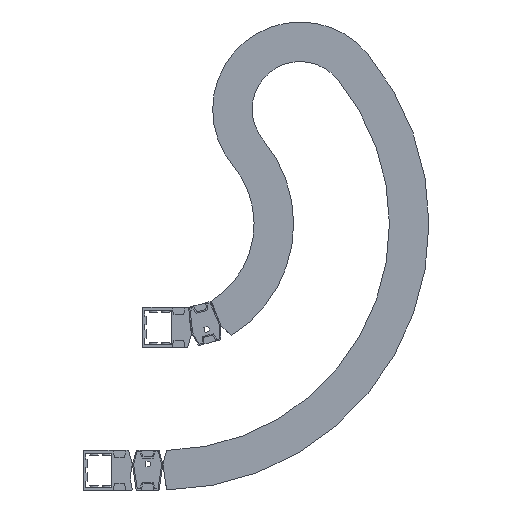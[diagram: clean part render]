
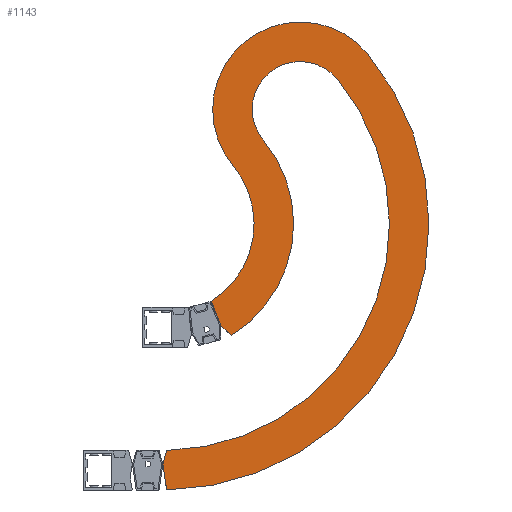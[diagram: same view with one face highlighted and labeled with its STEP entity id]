
A CAD part, front view. The second image highlights one B-rep face of the part: STEP entity #1143.
In plain terms, the highlighted planar face has unit normal (0, -1, 0).
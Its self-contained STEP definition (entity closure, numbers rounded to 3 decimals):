
#1143 = ADVANCED_FACE( '', ( #2284 ), #2285, .F. );
#2284 = FACE_OUTER_BOUND( '', #3412, .T. );
#2285 = PLANE( '', #3413 );
#3412 = EDGE_LOOP( '', ( #6754, #6755, #6756, #6757, #6758, #6759, #6760, #6761, #6762, #6763 ) );
#3413 = AXIS2_PLACEMENT_3D( '', #6764, #6765, #6766 );
#6754 = ORIENTED_EDGE( '', *, *, #7561, .F. );
#6755 = ORIENTED_EDGE( '', *, *, #7200, .F. );
#6756 = ORIENTED_EDGE( '', *, *, #8153, .F. );
#6757 = ORIENTED_EDGE( '', *, *, #8207, .T. );
#6758 = ORIENTED_EDGE( '', *, *, #8047, .F. );
#6759 = ORIENTED_EDGE( '', *, *, #7735, .F. );
#6760 = ORIENTED_EDGE( '', *, *, #7799, .F. );
#6761 = ORIENTED_EDGE( '', *, *, #7654, .T. );
#6762 = ORIENTED_EDGE( '', *, *, #7490, .T. );
#6763 = ORIENTED_EDGE( '', *, *, #7865, .F. );
#6764 = CARTESIAN_POINT( '', ( 0., -64., 0. ) );
#6765 = DIRECTION( '', ( 0., 1., 0. ) );
#6766 = DIRECTION( '', ( 0., 0., 1. ) );
#7200 = EDGE_CURVE( '', #8784, #8785, #8786, .T. );
#7490 = EDGE_CURVE( '', #9278, #9279, #9280, .T. );
#7561 = EDGE_CURVE( '', #8785, #9382, #9383, .T. );
#7654 = EDGE_CURVE( '', #9526, #9278, #9527, .T. );
#7735 = EDGE_CURVE( '', #9640, #9642, #9643, .T. );
#7799 = EDGE_CURVE( '', #9526, #9640, #9732, .T. );
#7865 = EDGE_CURVE( '', #9382, #9279, #9828, .T. );
#8047 = EDGE_CURVE( '', #9642, #10065, #10066, .T. );
#8153 = EDGE_CURVE( '', #10192, #8784, #10193, .T. );
#8207 = EDGE_CURVE( '', #10192, #10065, #10252, .T. );
#8784 = VERTEX_POINT( '', #11038 );
#8785 = VERTEX_POINT( '', #11039 );
#8786 = CIRCLE( '', #11040, 350. );
#9278 = VERTEX_POINT( '', #11713 );
#9279 = VERTEX_POINT( '', #11714 );
#9280 = CIRCLE( '', #11715, 298. );
#9382 = VERTEX_POINT( '', #11864 );
#9383 = LINE( '', #11865, #11866 );
#9526 = VERTEX_POINT( '', #12069 );
#9527 = CIRCLE( '', #12070, 63. );
#9640 = VERTEX_POINT( '', #12234 );
#9642 = VERTEX_POINT( '', #12237 );
#9643 = LINE( '', #12238, #12239 );
#9732 = CIRCLE( '', #12368, 172. );
#9828 = LINE( '', #12502, #12503 );
#10065 = VERTEX_POINT( '', #12842 );
#10066 = LINE( '', #12843, #12844 );
#10192 = VERTEX_POINT( '', #13026 );
#10193 = CIRCLE( '', #13027, 115. );
#10252 = CIRCLE( '', #13106, 120. );
#11038 = CARTESIAN_POINT( '', ( 268.862, -64., 224.083 ) );
#11039 = CARTESIAN_POINT( '', ( 4.975, -64., -349.965 ) );
#11040 = AXIS2_PLACEMENT_3D( '', #13502, #13503, #13504 );
#11713 = CARTESIAN_POINT( '', ( 228.917, -64., 190.79 ) );
#11714 = CARTESIAN_POINT( '', ( 4.992, -64., -297.958 ) );
#11715 = AXIS2_PLACEMENT_3D( '', #13845, #13846, #13847 );
#11864 = CARTESIAN_POINT( '', ( 0., -64., -316. ) );
#11865 = CARTESIAN_POINT( '', ( 4.975, -64., -349.965 ) );
#11866 = VECTOR( '', #13913, 1000. );
#12069 = CARTESIAN_POINT( '', ( 132.127, -64., 110.121 ) );
#12070 = AXIS2_PLACEMENT_3D( '', #14022, #14023, #14024 );
#12234 = CARTESIAN_POINT( '', ( 89.657, -64., -146.784 ) );
#12237 = CARTESIAN_POINT( '', ( 76.45, -64., -133.684 ) );
#12238 = CARTESIAN_POINT( '', ( 89.657, -64., -146.784 ) );
#12239 = VECTOR( '', #14101, 1000. );
#12368 = AXIS2_PLACEMENT_3D( '', #14166, #14167, #14168 );
#12502 = CARTESIAN_POINT( '', ( 0., -64., -316. ) );
#12503 = VECTOR( '', #14252, 1000. );
#12842 = CARTESIAN_POINT( '', ( 63.857, -64., -101.599 ) );
#12843 = CARTESIAN_POINT( '', ( 76.45, -64., -133.684 ) );
#12844 = VECTOR( '', #14433, 1000. );
#13026 = CARTESIAN_POINT( '', ( 92.181, -64., 76.828 ) );
#13027 = AXIS2_PLACEMENT_3D( '', #14526, #14527, #14528 );
#13106 = AXIS2_PLACEMENT_3D( '', #14561, #14562, #14563 );
#13502 = CARTESIAN_POINT( '', ( 0., -64., 0. ) );
#13503 = DIRECTION( '', ( 0., 1., 0. ) );
#13504 = DIRECTION( '', ( 1., 0., 0. ) );
#13845 = CARTESIAN_POINT( '', ( 0., -64., 0. ) );
#13846 = DIRECTION( '', ( 0., 1., 0. ) );
#13847 = DIRECTION( '', ( 1., 0., 0. ) );
#13913 = DIRECTION( '', ( -0.145, 0., 0.989 ) );
#14022 = CARTESIAN_POINT( '', ( 180.522, -64., 150.456 ) );
#14023 = DIRECTION( '', ( 0., 1., 0. ) );
#14024 = DIRECTION( '', ( 1., 0., 0. ) );
#14101 = DIRECTION( '', ( -0.71, 0., 0.704 ) );
#14166 = CARTESIAN_POINT( '', ( 0., -64., 0. ) );
#14167 = DIRECTION( '', ( 0., 1., 0. ) );
#14168 = DIRECTION( '', ( 1., 0., 0. ) );
#14252 = DIRECTION( '', ( 0.267, 0., 0.964 ) );
#14433 = DIRECTION( '', ( -0.365, 0., 0.931 ) );
#14526 = CARTESIAN_POINT( '', ( 180.522, -64., 150.456 ) );
#14527 = DIRECTION( '', ( 0., 1., 0. ) );
#14528 = DIRECTION( '', ( 1., 0., 0. ) );
#14561 = CARTESIAN_POINT( '', ( 0., -64., 0. ) );
#14562 = DIRECTION( '', ( 0., 1., 0. ) );
#14563 = DIRECTION( '', ( 1., 0., 0. ) );
